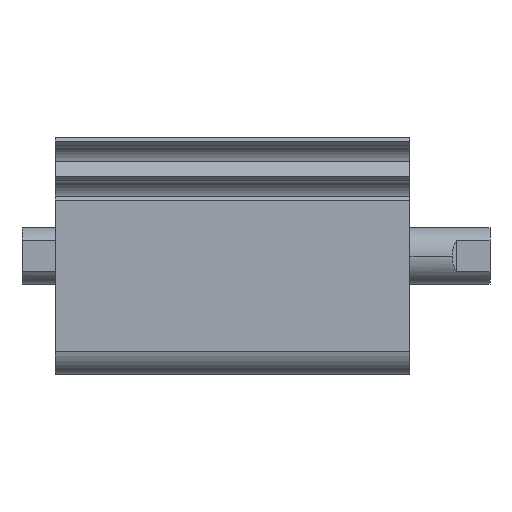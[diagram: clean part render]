
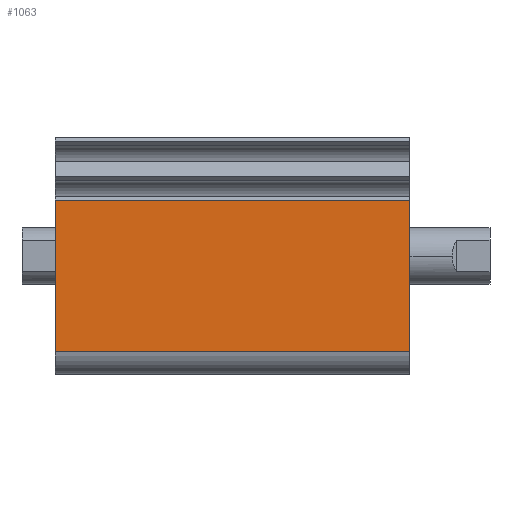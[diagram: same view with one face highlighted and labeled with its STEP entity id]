
A CAD part, top view. The second image highlights one B-rep face of the part: STEP entity #1063.
In plain terms, the highlighted planar face has unit normal (0, 0, 1).
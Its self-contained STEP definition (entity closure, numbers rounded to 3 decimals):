
#2 = CARTESIAN_POINT ( 'NONE',  ( 0., 5.885, 12.5 ) ) ;
#119 = EDGE_CURVE ( 'NONE', #299, #2262, #1341, .T. ) ;
#299 = VERTEX_POINT ( 'NONE', #1117 ) ;
#320 = DIRECTION ( 'NONE',  ( 0., -1., 0. ) ) ;
#491 = ORIENTED_EDGE ( 'NONE', *, *, #3160, .F. ) ;
#497 = VECTOR ( 'NONE', #3057, 1000. ) ;
#501 = VECTOR ( 'NONE', #980, 1000. ) ;
#757 = VERTEX_POINT ( 'NONE', #2368 ) ;
#759 = LINE ( 'NONE', #2, #497 ) ;
#785 = EDGE_LOOP ( 'NONE', ( #804, #985, #491, #2524 ) ) ;
#804 = ORIENTED_EDGE ( 'NONE', *, *, #923, .T. ) ;
#809 = CARTESIAN_POINT ( 'NONE',  ( 37.4, -10.069, 12.5 ) ) ;
#859 = VERTEX_POINT ( 'NONE', #1460 ) ;
#888 = CARTESIAN_POINT ( 'NONE',  ( 0., -10.069, 12.5 ) ) ;
#894 = VECTOR ( 'NONE', #2632, 1000. ) ;
#923 = EDGE_CURVE ( 'NONE', #757, #2262, #759, .T. ) ;
#980 = DIRECTION ( 'NONE',  ( 0., -1., 0. ) ) ;
#985 = ORIENTED_EDGE ( 'NONE', *, *, #119, .F. ) ;
#1063 = ADVANCED_FACE ( 'NONE', ( #2611 ), #3146, .F. ) ;
#1117 = CARTESIAN_POINT ( 'NONE',  ( 37.4, -10.069, 12.5 ) ) ;
#1341 = LINE ( 'NONE', #809, #3231 ) ;
#1362 = DIRECTION ( 'NONE',  ( 0., 0., -1. ) ) ;
#1428 = CARTESIAN_POINT ( 'NONE',  ( 37.4, 5.885, 12.5 ) ) ;
#1460 = CARTESIAN_POINT ( 'NONE',  ( 37.4, 5.885, 12.5 ) ) ;
#1643 = LINE ( 'NONE', #1428, #894 ) ;
#1993 = LINE ( 'NONE', #2693, #501 ) ;
#1997 = AXIS2_PLACEMENT_3D ( 'NONE', #2138, #1362, #320 ) ;
#2138 = CARTESIAN_POINT ( 'NONE',  ( 37.4, 5.885, 12.5 ) ) ;
#2262 = VERTEX_POINT ( 'NONE', #888 ) ;
#2368 = CARTESIAN_POINT ( 'NONE',  ( 0., 5.885, 12.5 ) ) ;
#2524 = ORIENTED_EDGE ( 'NONE', *, *, #2552, .T. ) ;
#2540 = DIRECTION ( 'NONE',  ( -1., 0., 0. ) ) ;
#2552 = EDGE_CURVE ( 'NONE', #859, #757, #1643, .T. ) ;
#2611 = FACE_OUTER_BOUND ( 'NONE', #785, .T. ) ;
#2632 = DIRECTION ( 'NONE',  ( -1., 0., 0. ) ) ;
#2693 = CARTESIAN_POINT ( 'NONE',  ( 37.4, 5.885, 12.5 ) ) ;
#3057 = DIRECTION ( 'NONE',  ( 0., -1., 0. ) ) ;
#3146 = PLANE ( 'NONE',  #1997 ) ;
#3160 = EDGE_CURVE ( 'NONE', #859, #299, #1993, .T. ) ;
#3231 = VECTOR ( 'NONE', #2540, 1000. ) ;
